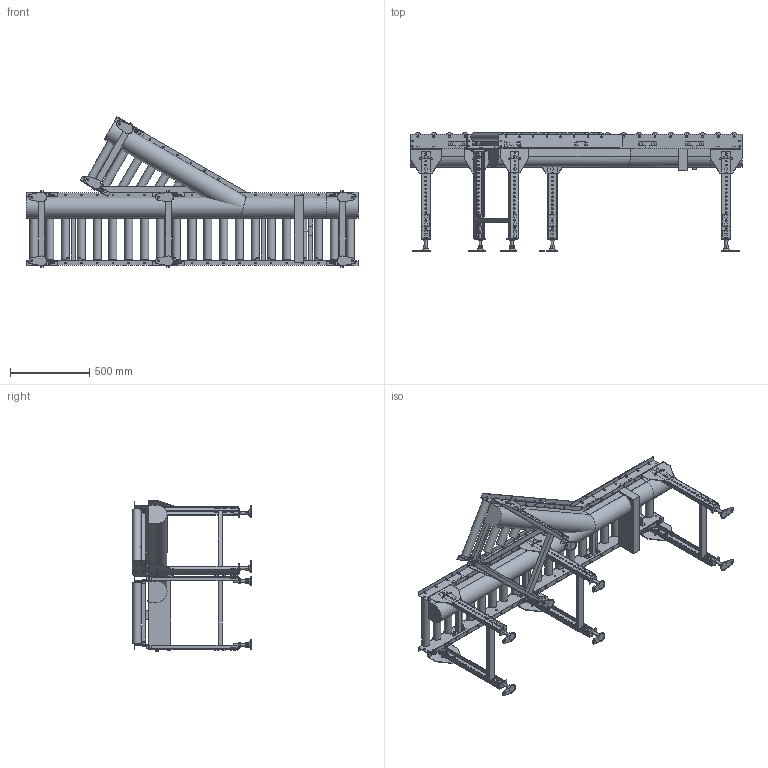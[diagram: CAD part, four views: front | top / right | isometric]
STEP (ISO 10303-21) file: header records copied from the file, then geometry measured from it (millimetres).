
FILE_DESCRIPTION( (''), '2;1');
FILE_NAME ('WEB-MCD-50-400-100-210-R-J30.stp','2025-07-01T15:43:32',(''),(''),'spGate 20.6.2 (****-****-****-****)','','');
FILE_SCHEMA (('AUTOMOTIVE_DESIGN'));
Length unit declared in the file: millimetre
Products named in the file (60): WEB-MCD-50-400-100-210-R-J30; TEMP_X_T-prt0; TEMP_X_T-prt1; TEMP_X_T-prt2; TEMP_X_T-prt3; TEMP_X_T-prt4; TEMP_X_T-prt5; TEMP_X_T-prt6; TEMP_X_T-prt7; TEMP_X_T-prt8; TEMP_X_T-prt9; TEMP_X_T-prt10; TEMP_X_T-prt11; TEMP_X_T-prt12; TEMP_X_T-prt13; TEMP_X_T-prt14; TEMP_X_T-prt15; TEMP_X_T-prt16; TEMP_X_T-prt17; TEMP_X_T-prt18; TEMP_X_T-prt19; TEMP_X_T-prt20; TEMP_X_T-prt21; TEMP_X_T-prt22; TEMP_X_T-prt23; TEMP_X_T-prt24; TEMP_X_T-prt25; TEMP_X_T-prt26; TEMP_X_T-prt27; TEMP_X_T-prt28; TEMP_X_T-prt29; TEMP_X_T-prt30; TEMP_X_T-prt31; TEMP_X_T-prt32; TEMP_X_T-prt33; TEMP_X_T-prt34; TEMP_X_T-prt35; TEMP_X_T-prt36; TEMP_X_T-prt37; TEMP_X_T-prt38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
Assembly tree (59 placements, depth 2):
  WEB-MCD-50-400-100-210-R-J30
    TEMP_X_T-prt0
    TEMP_X_T-prt1
    TEMP_X_T-prt2
    TEMP_X_T-prt3
    TEMP_X_T-prt4
    TEMP_X_T-prt5
    TEMP_X_T-prt6
    TEMP_X_T-prt7
    TEMP_X_T-prt8
    TEMP_X_T-prt9
    TEMP_X_T-prt10
    TEMP_X_T-prt11
    TEMP_X_T-prt12
    TEMP_X_T-prt13
    TEMP_X_T-prt14
    TEMP_X_T-prt15
    TEMP_X_T-prt16
    TEMP_X_T-prt17
    TEMP_X_T-prt18
    TEMP_X_T-prt19
    TEMP_X_T-prt20
    TEMP_X_T-prt21
    TEMP_X_T-prt22
    TEMP_X_T-prt23
    TEMP_X_T-prt24
    TEMP_X_T-prt25
    TEMP_X_T-prt26
    TEMP_X_T-prt27
    TEMP_X_T-prt28
    TEMP_X_T-prt29
    TEMP_X_T-prt30
    TEMP_X_T-prt31
    TEMP_X_T-prt32
    TEMP_X_T-prt33
    TEMP_X_T-prt34
    TEMP_X_T-prt35
    TEMP_X_T-prt36
    TEMP_X_T-prt37
    TEMP_X_T-prt38
    TEMP_X_T-prt39
    TEMP_X_T-prt40
    TEMP_X_T-prt41
    TEMP_X_T-prt42
    TEMP_X_T-prt43
    TEMP_X_T-prt44
    TEMP_X_T-prt45
    TEMP_X_T-prt46
    TEMP_X_T-prt47
    TEMP_X_T-prt48
    TEMP_X_T-prt49
    TEMP_X_T-prt50
    TEMP_X_T-prt51
    TEMP_X_T-prt52
    TEMP_X_T-prt53
    TEMP_X_T-prt54
    TEMP_X_T-prt55
    TEMP_X_T-prt56
    TEMP_X_T-prt57
    TEMP_X_T-prt58
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Bounding box: 2100 x 750 x 951.96 mm (x, y, z)
Volume: 81692552.5 mm3; surface area: 7333622.5 mm2
Topology: 59 solids, 99 shells, 4010 faces, 10575 edges, 6947 vertices
Faces by surface type: plane 3235, cylinder 767, bspline 8
Full cylindrical faces by diameter (mm): 9 x12, 10 x102, 10.5 x184, 11 x60, 12 x53, 13 x23, 16 x8, 18.4 x48, 18.5 x16, 21 x24, 50.8 x29
Entity records: 211895 total; most frequent: CARTESIAN_POINT 23369, DIRECTION 21421, ORIENTED_EDGE 21150, COLOUR_RGB 14644, PRESENTATION_STYLE_ASSIGNMENT 14644, STYLED_ITEM 14644, EDGE_CURVE 10575, DRAUGHTING_PRE_DEFINED_CURVE_FONT 10575
